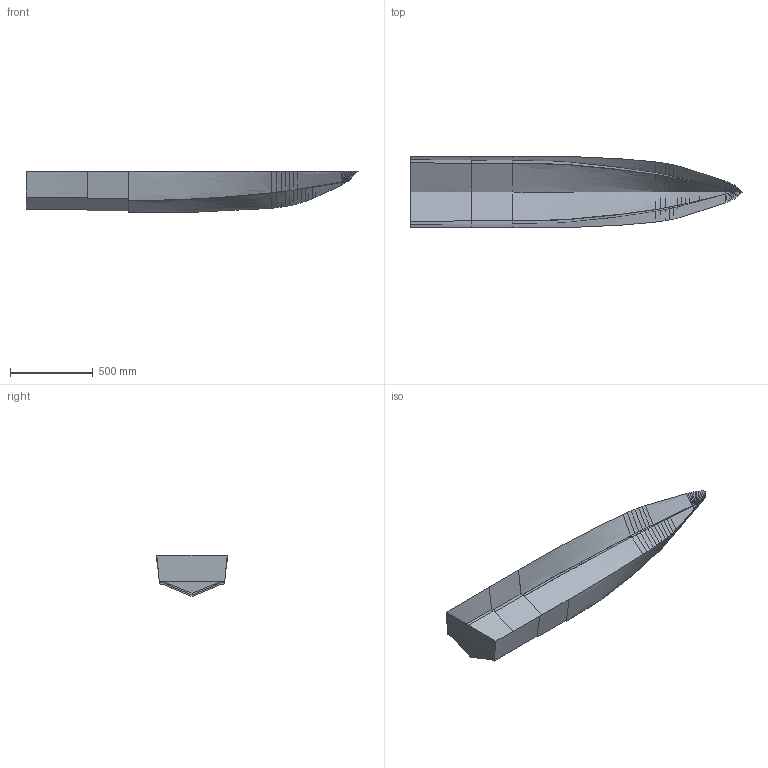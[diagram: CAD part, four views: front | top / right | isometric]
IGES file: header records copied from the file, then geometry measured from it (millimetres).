
Global section: file name: \\filestore.soton.ac.uk\users\djt2\mydocuments\Library\MyPublications\Journal\2011-IJSCT96-HSC Resistance\Models\HULL C2.igs; native system: Rhinoceros ( May 22 2017 ); preprocessor: Trout Lake IGES 012 May 22 2017; date: 180801.114701; units: millimetre
Bounding box: 2000.03 x 430.99 x 247.72 mm (x, y, z)
Surface area: 1356009.1 mm2 (no closed solid volume)
Topology: 0 solids, 0 shells, 104 faces, 1555 edges, 1643 vertices
Faces by surface type: bspline 104
